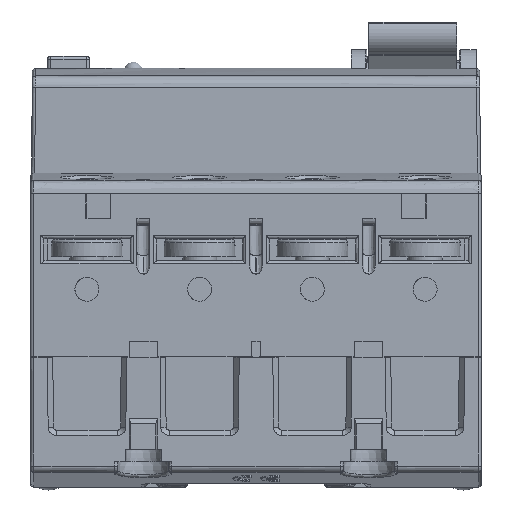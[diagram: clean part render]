
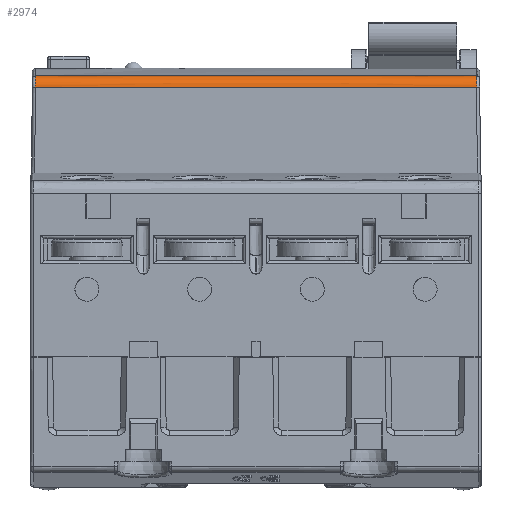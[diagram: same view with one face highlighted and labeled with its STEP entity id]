
A CAD part, left-side view. The second image highlights one B-rep face of the part: STEP entity #2974.
In plain terms, the highlighted free-form (B-spline) face has degree [3, 3] with [10, 4] control points.
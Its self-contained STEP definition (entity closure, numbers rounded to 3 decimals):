
#354=B_SPLINE_SURFACE_WITH_KNOTS('',3,3,((#43264,#43265,#43266,#43267),
(#43268,#43269,#43270,#43271),(#43272,#43273,#43274,#43275),(#43276,#43277,
#43278,#43279),(#43280,#43281,#43282,#43283),(#43284,#43285,#43286,#43287),
(#43288,#43289,#43290,#43291),(#43292,#43293,#43294,#43295),(#43296,#43297,
#43298,#43299),(#43300,#43301,#43302,#43303)),.UNSPECIFIED.,.F.,.F.,.F.,
(4,2,2,2,4),(4,4),(0.,0.25,0.5,0.75,1.),(0.,1.),.UNSPECIFIED.);
#1365=FACE_OUTER_BOUND('',#5971,.T.);
#2974=ADVANCED_FACE('',(#1365),#354,.T.);
#5971=EDGE_LOOP('',(#12352,#12353,#12354,#12355));
#7885=B_SPLINE_CURVE_WITH_KNOTS('',3,(#41811,#41812,#41813,#41814),
 .UNSPECIFIED.,.F.,.F.,(4,4),(0.,1.),.UNSPECIFIED.);
#7888=B_SPLINE_CURVE_WITH_KNOTS('',3,(#41839,#41840,#41841,#41842,#41843,
#41844),.UNSPECIFIED.,.F.,.F.,(4,2,4),(0.,0.5,1.),.UNSPECIFIED.);
#7893=B_SPLINE_CURVE_WITH_KNOTS('',3,(#41995,#41996,#41997,#41998,#41999,
#42000),.UNSPECIFIED.,.F.,.F.,(4,2,4),(0.,0.5,1.),.UNSPECIFIED.);
#7945=B_SPLINE_CURVE_WITH_KNOTS('',3,(#43260,#43261,#43262,#43263),
 .UNSPECIFIED.,.F.,.F.,(4,4),(0.,1.),.UNSPECIFIED.);
#12352=ORIENTED_EDGE('',*,*,#22883,.F.);
#12353=ORIENTED_EDGE('',*,*,#22826,.T.);
#12354=ORIENTED_EDGE('',*,*,#22823,.T.);
#12355=ORIENTED_EDGE('',*,*,#22831,.T.);
#19544=VERTEX_POINT('',#40031);
#19590=VERTEX_POINT('',#40506);
#19622=VERTEX_POINT('',#41845);
#19625=VERTEX_POINT('',#42001);
#22823=EDGE_CURVE('',#19544,#19590,#7885,.T.);
#22826=EDGE_CURVE('',#19622,#19544,#7888,.T.);
#22831=EDGE_CURVE('',#19590,#19625,#7893,.T.);
#22883=EDGE_CURVE('',#19622,#19625,#7945,.T.);
#40031=CARTESIAN_POINT('',(-22.279,51.95,55.886));
#40506=CARTESIAN_POINT('',(-22.279,-17.742,55.886));
#41811=CARTESIAN_POINT('',(-22.279,51.95,55.886));
#41812=CARTESIAN_POINT('',(-22.279,28.719,55.886));
#41813=CARTESIAN_POINT('',(-22.279,5.488,55.886));
#41814=CARTESIAN_POINT('',(-22.279,-17.742,55.886));
#41839=CARTESIAN_POINT('',(-20.687,51.939,57.658));
#41840=CARTESIAN_POINT('',(-20.998,51.939,57.622));
#41841=CARTESIAN_POINT('',(-21.369,51.94,57.494));
#41842=CARTESIAN_POINT('',(-22.011,51.944,56.91));
#41843=CARTESIAN_POINT('',(-22.274,51.947,56.441));
#41844=CARTESIAN_POINT('',(-22.279,51.95,55.886));
#41845=CARTESIAN_POINT('',(-20.687,51.939,57.658));
#41995=CARTESIAN_POINT('',(-22.279,-17.742,55.886));
#41996=CARTESIAN_POINT('',(-22.274,-17.739,56.441));
#41997=CARTESIAN_POINT('',(-22.011,-17.736,56.91));
#41998=CARTESIAN_POINT('',(-21.369,-17.733,57.494));
#41999=CARTESIAN_POINT('',(-20.998,-17.732,57.622));
#42000=CARTESIAN_POINT('',(-20.687,-17.731,57.658));
#42001=CARTESIAN_POINT('',(-20.687,-17.731,57.658));
#43260=CARTESIAN_POINT('',(-20.687,51.939,57.658));
#43261=CARTESIAN_POINT('',(-20.687,28.716,57.658));
#43262=CARTESIAN_POINT('',(-20.687,5.492,57.658));
#43263=CARTESIAN_POINT('',(-20.687,-17.731,57.658));
#43264=CARTESIAN_POINT('',(-22.279,-18.161,55.886));
#43265=CARTESIAN_POINT('',(-22.279,5.349,55.886));
#43266=CARTESIAN_POINT('',(-22.279,28.859,55.886));
#43267=CARTESIAN_POINT('',(-22.279,52.369,55.886));
#43268=CARTESIAN_POINT('',(-22.277,-18.161,56.103));
#43269=CARTESIAN_POINT('',(-22.277,5.349,56.103));
#43270=CARTESIAN_POINT('',(-22.277,28.859,56.103));
#43271=CARTESIAN_POINT('',(-22.277,52.369,56.103));
#43272=CARTESIAN_POINT('',(-22.236,-18.161,56.32));
#43273=CARTESIAN_POINT('',(-22.236,5.349,56.32));
#43274=CARTESIAN_POINT('',(-22.236,28.859,56.32));
#43275=CARTESIAN_POINT('',(-22.236,52.369,56.32));
#43276=CARTESIAN_POINT('',(-22.079,-18.161,56.724));
#43277=CARTESIAN_POINT('',(-22.079,5.349,56.724));
#43278=CARTESIAN_POINT('',(-22.079,28.859,56.724));
#43279=CARTESIAN_POINT('',(-22.079,52.369,56.724));
#43280=CARTESIAN_POINT('',(-21.963,-18.161,56.912));
#43281=CARTESIAN_POINT('',(-21.963,5.349,56.912));
#43282=CARTESIAN_POINT('',(-21.963,28.859,56.912));
#43283=CARTESIAN_POINT('',(-21.963,52.369,56.912));
#43284=CARTESIAN_POINT('',(-21.673,-18.161,57.235));
#43285=CARTESIAN_POINT('',(-21.673,5.349,57.235));
#43286=CARTESIAN_POINT('',(-21.673,28.859,57.235));
#43287=CARTESIAN_POINT('',(-21.673,52.369,57.235));
#43288=CARTESIAN_POINT('',(-21.498,-18.161,57.37));
#43289=CARTESIAN_POINT('',(-21.498,5.349,57.37));
#43290=CARTESIAN_POINT('',(-21.498,28.859,57.37));
#43291=CARTESIAN_POINT('',(-21.498,52.369,57.37));
#43292=CARTESIAN_POINT('',(-21.113,-18.161,57.569));
#43293=CARTESIAN_POINT('',(-21.113,5.349,57.569));
#43294=CARTESIAN_POINT('',(-21.113,28.859,57.569));
#43295=CARTESIAN_POINT('',(-21.113,52.369,57.569));
#43296=CARTESIAN_POINT('',(-20.902,-18.161,57.633));
#43297=CARTESIAN_POINT('',(-20.902,5.349,57.633));
#43298=CARTESIAN_POINT('',(-20.902,28.859,57.633));
#43299=CARTESIAN_POINT('',(-20.902,52.369,57.633));
#43300=CARTESIAN_POINT('',(-20.687,-18.161,57.658));
#43301=CARTESIAN_POINT('',(-20.687,5.349,57.658));
#43302=CARTESIAN_POINT('',(-20.687,28.859,57.658));
#43303=CARTESIAN_POINT('',(-20.687,52.369,57.658));
